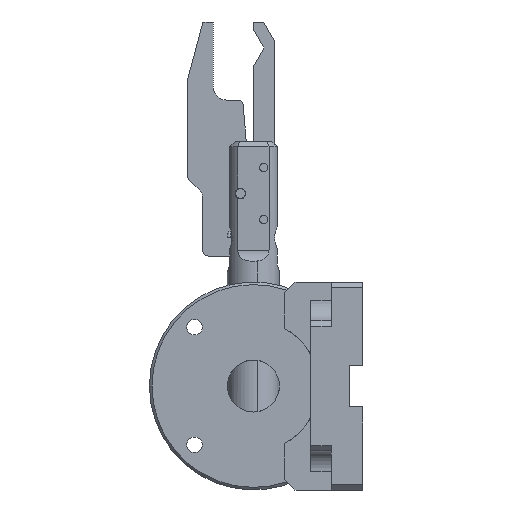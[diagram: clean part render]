
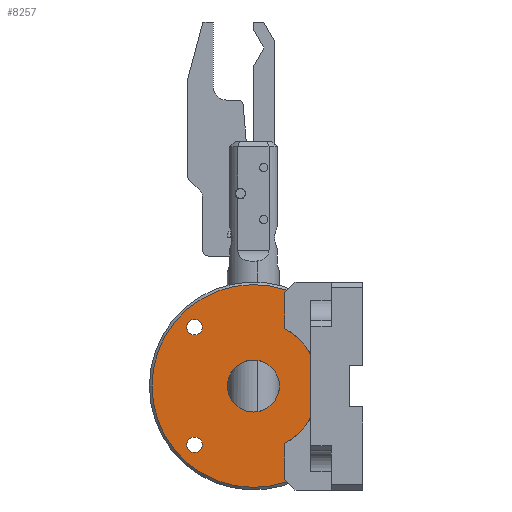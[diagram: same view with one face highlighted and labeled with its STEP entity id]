
A CAD part, left-side view. The second image highlights one B-rep face of the part: STEP entity #8257.
In plain terms, the highlighted planar face has unit normal (-1, 0, 0).
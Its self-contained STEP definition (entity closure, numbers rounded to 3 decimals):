
#11 = DIRECTION ( 'NONE',  ( 0., 0.707, 0.707 ) ) ;
#97 = EDGE_CURVE ( 'NONE', #9644, #11154, #573, .T. ) ;
#514 = CARTESIAN_POINT ( 'NONE',  ( 0., 32.314, 29.814 ) ) ;
#573 = LINE ( 'NONE', #707, #9591 ) ;
#628 = FACE_BOUND ( 'NONE', #6662, .T. ) ;
#646 = ORIENTED_EDGE ( 'NONE', *, *, #3435, .F. ) ;
#687 = AXIS2_PLACEMENT_3D ( 'NONE', #10473, #2352, #9568 ) ;
#707 = CARTESIAN_POINT ( 'NONE',  ( 0., 15., 2. ) ) ;
#730 = DIRECTION ( 'NONE',  ( 1., 0., 0. ) ) ;
#780 = AXIS2_PLACEMENT_3D ( 'NONE', #3220, #7767, #7720 ) ;
#797 = DIRECTION ( 'NONE',  ( 0., 0.476, -0.879 ) ) ;
#936 = CARTESIAN_POINT ( 'NONE',  ( 0., 15., 8.92 ) ) ;
#1007 = ORIENTED_EDGE ( 'NONE', *, *, #8973, .T. ) ;
#1025 = ORIENTED_EDGE ( 'NONE', *, *, #8092, .T. ) ;
#1175 = AXIS2_PLACEMENT_3D ( 'NONE', #3829, #6473, #4715 ) ;
#1457 = CARTESIAN_POINT ( 'NONE',  ( 0., 32.314, 31.314 ) ) ;
#1624 = ORIENTED_EDGE ( 'NONE', *, *, #4206, .T. ) ;
#1718 = CARTESIAN_POINT ( 'NONE',  ( 0., 15., 38. ) ) ;
#1858 = VERTEX_POINT ( 'NONE', #11271 ) ;
#1981 = ORIENTED_EDGE ( 'NONE', *, *, #9193, .T. ) ;
#2124 = AXIS2_PLACEMENT_3D ( 'NONE', #1457, #8534, #5876 ) ;
#2138 = DIRECTION ( 'NONE',  ( 0., 0., 1. ) ) ;
#2282 = ORIENTED_EDGE ( 'NONE', *, *, #5582, .T. ) ;
#2352 = DIRECTION ( 'NONE',  ( -1., 0., 0. ) ) ;
#2650 = CIRCLE ( 'NONE', #11348, 1.5 ) ;
#2896 = DIRECTION ( 'NONE',  ( 0., -0.707, 0.707 ) ) ;
#2904 = CARTESIAN_POINT ( 'NONE',  ( 0., 21., 20. ) ) ;
#2930 = CARTESIAN_POINT ( 'NONE',  ( 0., 21., 15. ) ) ;
#2955 = CARTESIAN_POINT ( 'NONE',  ( 0., 14.585, 1.585 ) ) ;
#3220 = CARTESIAN_POINT ( 'NONE',  ( 0., 32.314, 8.686 ) ) ;
#3273 = CARTESIAN_POINT ( 'NONE',  ( 0., 21., 20. ) ) ;
#3346 = CARTESIAN_POINT ( 'NONE',  ( 0., 14.585, 38.415 ) ) ;
#3435 = EDGE_CURVE ( 'NONE', #10147, #11154, #8030, .T. ) ;
#3473 = CARTESIAN_POINT ( 'NONE',  ( 0., 21., 20. ) ) ;
#3499 = ORIENTED_EDGE ( 'NONE', *, *, #6267, .T. ) ;
#3661 = EDGE_LOOP ( 'NONE', ( #11490, #1624 ) ) ;
#3749 = CARTESIAN_POINT ( 'NONE',  ( 0., 15., 31.08 ) ) ;
#3829 = CARTESIAN_POINT ( 'NONE',  ( 0., 32.314, 31.314 ) ) ;
#3859 = VERTEX_POINT ( 'NONE', #10550 ) ;
#3955 = AXIS2_PLACEMENT_3D ( 'NONE', #3473, #7835, #797 ) ;
#4012 = AXIS2_PLACEMENT_3D ( 'NONE', #9084, #10105, #6452 ) ;
#4206 = EDGE_CURVE ( 'NONE', #8330, #3859, #9851, .T. ) ;
#4251 = CIRCLE ( 'NONE', #780, 1.5 ) ;
#4295 = CARTESIAN_POINT ( 'NONE',  ( 0., 21., 20. ) ) ;
#4427 = CARTESIAN_POINT ( 'NONE',  ( 0., 14.585, 1.585 ) ) ;
#4536 = LINE ( 'NONE', #8270, #5258 ) ;
#4630 = ORIENTED_EDGE ( 'NONE', *, *, #8570, .T. ) ;
#4715 = DIRECTION ( 'NONE',  ( 0., 0., -1. ) ) ;
#4761 = AXIS2_PLACEMENT_3D ( 'NONE', #2904, #5581, #9988 ) ;
#4850 = CIRCLE ( 'NONE', #4761, 5. ) ;
#4966 = CARTESIAN_POINT ( 'NONE',  ( 0., 32.314, 8.686 ) ) ;
#4982 = AXIS2_PLACEMENT_3D ( 'NONE', #3273, #8611, #5995 ) ;
#5007 = EDGE_LOOP ( 'NONE', ( #1007, #1981, #3499, #11462, #646, #1025, #4630 ) ) ;
#5258 = VECTOR ( 'NONE', #2896, 1000. ) ;
#5581 = DIRECTION ( 'NONE',  ( 1., 0., 0. ) ) ;
#5582 = EDGE_CURVE ( 'NONE', #5948, #1858, #8696, .T. ) ;
#5768 = VERTEX_POINT ( 'NONE', #8833 ) ;
#5876 = DIRECTION ( 'NONE',  ( 0., 0., -1. ) ) ;
#5948 = VERTEX_POINT ( 'NONE', #2930 ) ;
#5995 = DIRECTION ( 'NONE',  ( 0., -1., 0. ) ) ;
#6262 = LINE ( 'NONE', #8283, #7112 ) ;
#6267 = EDGE_CURVE ( 'NONE', #6747, #9644, #9392, .T. ) ;
#6452 = DIRECTION ( 'NONE',  ( 0., -1., 0. ) ) ;
#6473 = DIRECTION ( 'NONE',  ( 1., 0., 0. ) ) ;
#6546 = CARTESIAN_POINT ( 'NONE',  ( 0., 40.5, 20. ) ) ;
#6662 = EDGE_LOOP ( 'NONE', ( #8830, #10330 ) ) ;
#6747 = VERTEX_POINT ( 'NONE', #2955 ) ;
#6946 = CIRCLE ( 'NONE', #4012, 19.5 ) ;
#6956 = EDGE_LOOP ( 'NONE', ( #11629, #2282 ) ) ;
#7010 = VECTOR ( 'NONE', #11, 1000. ) ;
#7112 = VECTOR ( 'NONE', #2138, 1000. ) ;
#7223 = VERTEX_POINT ( 'NONE', #1718 ) ;
#7573 = CARTESIAN_POINT ( 'NONE',  ( 0., 15., 2. ) ) ;
#7720 = DIRECTION ( 'NONE',  ( 0., 0., -1. ) ) ;
#7728 = DIRECTION ( 'NONE',  ( 1., 0., 0. ) ) ;
#7767 = DIRECTION ( 'NONE',  ( 1., 0., 0. ) ) ;
#7816 = DIRECTION ( 'NONE',  ( 0., 0., -1. ) ) ;
#7835 = DIRECTION ( 'NONE',  ( 1., 0., 0. ) ) ;
#8030 = CIRCLE ( 'NONE', #3955, 12.6 ) ;
#8092 = EDGE_CURVE ( 'NONE', #10147, #7223, #6262, .T. ) ;
#8257 = ADVANCED_FACE ( 'NONE', ( #8643, #10485, #628, #10909 ), #11220, .T. ) ;
#8270 = CARTESIAN_POINT ( 'NONE',  ( 0., 15., 38. ) ) ;
#8283 = CARTESIAN_POINT ( 'NONE',  ( 0., 15., 31.08 ) ) ;
#8330 = VERTEX_POINT ( 'NONE', #514 ) ;
#8534 = DIRECTION ( 'NONE',  ( 1., 0., 0. ) ) ;
#8570 = EDGE_CURVE ( 'NONE', #7223, #9785, #4536, .T. ) ;
#8574 = AXIS2_PLACEMENT_3D ( 'NONE', #4295, #730, #7816 ) ;
#8611 = DIRECTION ( 'NONE',  ( -1., 0., 0. ) ) ;
#8643 = FACE_OUTER_BOUND ( 'NONE', #5007, .T. ) ;
#8696 = CIRCLE ( 'NONE', #8574, 5. ) ;
#8780 = EDGE_CURVE ( 'NONE', #5768, #9211, #4251, .T. ) ;
#8830 = ORIENTED_EDGE ( 'NONE', *, *, #9740, .T. ) ;
#8833 = CARTESIAN_POINT ( 'NONE',  ( 0., 32.314, 7.186 ) ) ;
#8967 = CIRCLE ( 'NONE', #2124, 1.5 ) ;
#8973 = EDGE_CURVE ( 'NONE', #9785, #10053, #6946, .T. ) ;
#9084 = CARTESIAN_POINT ( 'NONE',  ( 0., 21., 20. ) ) ;
#9193 = EDGE_CURVE ( 'NONE', #10053, #6747, #11443, .T. ) ;
#9211 = VERTEX_POINT ( 'NONE', #10513 ) ;
#9392 = LINE ( 'NONE', #4427, #7010 ) ;
#9568 = DIRECTION ( 'NONE',  ( 0., -1., 0. ) ) ;
#9591 = VECTOR ( 'NONE', #9609, 1000. ) ;
#9599 = DIRECTION ( 'NONE',  ( 0., 0., -1. ) ) ;
#9609 = DIRECTION ( 'NONE',  ( 0., 0., 1. ) ) ;
#9644 = VERTEX_POINT ( 'NONE', #7573 ) ;
#9740 = EDGE_CURVE ( 'NONE', #9211, #5768, #2650, .T. ) ;
#9785 = VERTEX_POINT ( 'NONE', #3346 ) ;
#9851 = CIRCLE ( 'NONE', #1175, 1.5 ) ;
#9988 = DIRECTION ( 'NONE',  ( 0., 0., -1. ) ) ;
#10053 = VERTEX_POINT ( 'NONE', #6546 ) ;
#10105 = DIRECTION ( 'NONE',  ( -1., 0., 0. ) ) ;
#10147 = VERTEX_POINT ( 'NONE', #3749 ) ;
#10330 = ORIENTED_EDGE ( 'NONE', *, *, #8780, .T. ) ;
#10473 = CARTESIAN_POINT ( 'NONE',  ( 0., 43.71, -12.93 ) ) ;
#10485 = FACE_BOUND ( 'NONE', #3661, .T. ) ;
#10513 = CARTESIAN_POINT ( 'NONE',  ( 0., 32.314, 10.186 ) ) ;
#10550 = CARTESIAN_POINT ( 'NONE',  ( 0., 32.314, 32.814 ) ) ;
#10909 = FACE_BOUND ( 'NONE', #6956, .T. ) ;
#11026 = EDGE_CURVE ( 'NONE', #3859, #8330, #8967, .T. ) ;
#11154 = VERTEX_POINT ( 'NONE', #936 ) ;
#11220 = PLANE ( 'NONE',  #687 ) ;
#11224 = EDGE_CURVE ( 'NONE', #1858, #5948, #4850, .T. ) ;
#11271 = CARTESIAN_POINT ( 'NONE',  ( 0., 21., 25. ) ) ;
#11348 = AXIS2_PLACEMENT_3D ( 'NONE', #4966, #7728, #9599 ) ;
#11443 = CIRCLE ( 'NONE', #4982, 19.5 ) ;
#11462 = ORIENTED_EDGE ( 'NONE', *, *, #97, .T. ) ;
#11490 = ORIENTED_EDGE ( 'NONE', *, *, #11026, .T. ) ;
#11629 = ORIENTED_EDGE ( 'NONE', *, *, #11224, .T. ) ;
